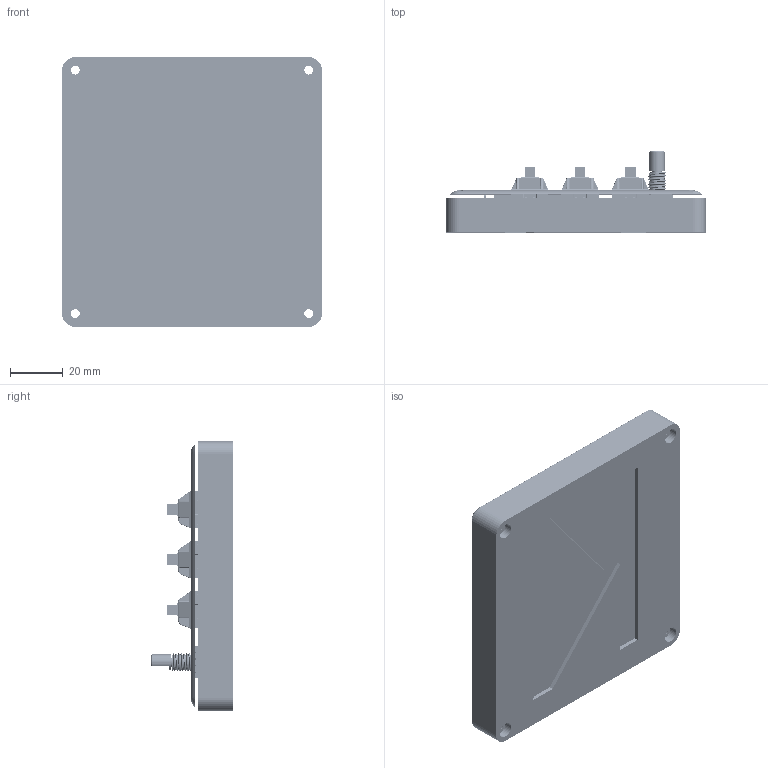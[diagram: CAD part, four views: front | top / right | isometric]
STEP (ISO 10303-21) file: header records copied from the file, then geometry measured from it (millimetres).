
FILE_DESCRIPTION(/* description */ ('STEP AP242','CAx-IF Rec.Pracs.---Representation and Presentation of Product Manufacturing Information (PMI)---4.0---2014-10-13','CAx-IF Rec.Pracs.---3D Tessellated Geometry---0.4---2014-09-14','2;1'),/* implementation_level */ '2;1');
FILE_NAME(/* name */ '68825e128d3a6d43b63b613c',/* time_stamp */ '2025-07-24T16:23:49Z',/* author */ (''),/* organization */ (''),/* preprocessor_version */ 'ST-DEVELOPER v20',/* originating_system */ 'ONSHAPE BY PTC INC, 1.201',/* authorisation */ ' ');
FILE_SCHEMA (('AP242_MANAGED_MODEL_BASED_3D_ENGINEERING_MIM_LF { 1 0 10303 442 1 1 4 }'));
Products named in the file (42): Assembly 2; Part 2; Part 3; Part 4; Part 1; Part 5; hack pad 1 <1>; SW_Cherry_MX_Plate; EC11; D_DO-35_SOD27_P7.62mm_Horizontal; LED_SK6812_PLCC4_5.0x5.0mm_P3.2mm; hack pad_PCB; OLED_128x32 <1>; RESC-0603; Pin Header 4 x 1 TH 2.54mm Pitch; 2SD0601A; OLED_0.91_128x32
Assembly tree (152 placements, depth 4):
  Assembly 2
    Part 2
    Part 3
    Part 4
    Part 1
    Part 1
    Part 5
    hack pad 1 <1>
      SW_Cherry_MX_Plate  x9
      EC11
      SW_Cherry_MX_Plate  x9
      SW_Cherry_MX_Plate  x9
      EC11
      SW_Cherry_MX_Plate  x9
      SW_Cherry_MX_Plate  x9
      D_DO-35_SOD27_P7.62mm_Horizontal  x9
      D_DO-35_SOD27_P7.62mm_Horizontal  x9
      SW_Cherry_MX_Plate  x9
      SW_Cherry_MX_Plate  x9
      EC11
      LED_SK6812_PLCC4_5.0x5.0mm_P3.2mm  x4
      EC11
      EC11
      EC11
      hack pad_PCB
      OLED_128x32 <1>
        RESC-0603  x13
        RESC-0603  x13
        Pin Header 4 x 1 TH 2.54mm Pitch
        RESC-0603  x13
        Pin Header 4 x 1 TH 2.54mm Pitch
        2SD0601A
        Pin Header 4 x 1 TH 2.54mm Pitch
        Pin Header 4 x 1 TH 2.54mm Pitch
        Pin Header 4 x 1 TH 2.54mm Pitch
        Pin Header 4 x 1 TH 2.54mm Pitch
        OLED_0.91_128x32
        2SD0601A
        2SD0601A
        Pin Header 4 x 1 TH 2.54mm Pitch
        Pin Header 4 x 1 TH 2.54mm Pitch
        2SD0601A
Bounding box: 98.58 x 30.75 x 102.31 mm (x, y, z)
Volume: 91325.4 mm3; surface area: 94436.8 mm2
Topology: 150 solids, 150 shells, 10180 faces, 26893 edges, 17101 vertices
Faces by surface type: plane 6600, cylinder 2671, torus 333, bspline 285, sphere 250, cone 41
Full cylindrical faces by diameter (mm): 0.5 x27, 0.8 x18, 1 x27, 1.2 x9, 1.6 x27, 1.75 x18, 2 x35, 2.02 x9, 2.6 x9, 3.05 x18, 3.2 x9, 3.333 x4, 3.4 x8, 3.5 x1, 3.8 x9, 4 x9, 4.8 x9, 6 x9
Entity records: 75950 total; most frequent: CARTESIAN_POINT 20676, ORIENTED_EDGE 10450, DIRECTION 10158, EDGE_CURVE 5225, LINE 3856, VECTOR 3856, VERTEX_POINT 3461, AXIS2_PLACEMENT_3D 3151
